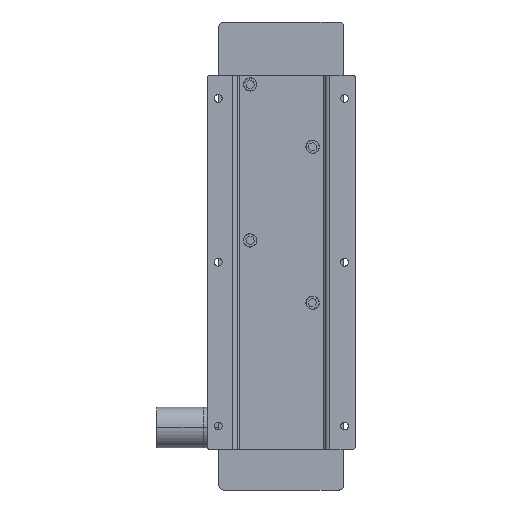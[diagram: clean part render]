
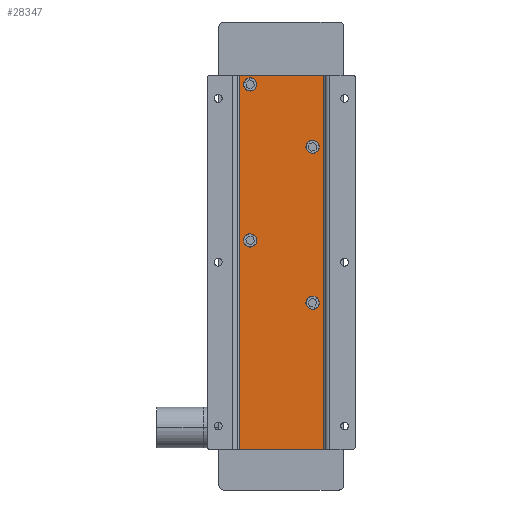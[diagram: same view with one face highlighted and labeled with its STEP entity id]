
A CAD part, left-side view. The second image highlights one B-rep face of the part: STEP entity #28347.
In plain terms, the highlighted planar face has unit normal (-1, 0, 0) as drawn and (0, 0, -1) by its records, which use the part's own axes.
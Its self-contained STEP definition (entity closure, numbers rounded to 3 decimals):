
#742 = CARTESIAN_POINT ( 'NONE',  ( 0., 0., -2. ) ) ;
#1058 = CARTESIAN_POINT ( 'NONE',  ( -110.75, 20., -2. ) ) ;
#1522 = EDGE_CURVE ( 'NONE', #21336, #51454, #3804, .T. ) ;
#1655 = VERTEX_POINT ( 'NONE', #1058 ) ;
#1975 = DIRECTION ( 'NONE',  ( 0., -1., 0. ) ) ;
#2724 = VERTEX_POINT ( 'NONE', #57468 ) ;
#2804 = DIRECTION ( 'NONE',  ( 1., 0., 0. ) ) ;
#3451 = DIRECTION ( 'NONE',  ( 0., 0., 1. ) ) ;
#3510 = LINE ( 'NONE', #21693, #42760 ) ;
#3804 = CIRCLE ( 'NONE', #9486, 3.25 ) ;
#3989 = CIRCLE ( 'NONE', #17433, 3.25 ) ;
#4306 = VECTOR ( 'NONE', #1975, 1000. ) ;
#5058 = VERTEX_POINT ( 'NONE', #40577 ) ;
#5329 = CARTESIAN_POINT ( 'NONE',  ( 120., 27., -2. ) ) ;
#6392 = ORIENTED_EDGE ( 'NONE', *, *, #25452, .F. ) ;
#6662 = VECTOR ( 'NONE', #52565, 1000. ) ;
#7545 = LINE ( 'NONE', #43031, #6662 ) ;
#7714 = DIRECTION ( 'NONE',  ( 1., 0., 0. ) ) ;
#7776 = VERTEX_POINT ( 'NONE', #50615 ) ;
#8488 = ORIENTED_EDGE ( 'NONE', *, *, #19435, .T. ) ;
#9302 = AXIS2_PLACEMENT_3D ( 'NONE', #742, #36752, #23974 ) ;
#9486 = AXIS2_PLACEMENT_3D ( 'NONE', #25546, #3451, #57967 ) ;
#9522 = DIRECTION ( 'NONE',  ( 0., 0., 1. ) ) ;
#10765 = CARTESIAN_POINT ( 'NONE',  ( 22.75, -20., -2. ) ) ;
#11012 = CARTESIAN_POINT ( 'NONE',  ( -14., 20., -2. ) ) ;
#11297 = DIRECTION ( 'NONE',  ( 0., 0., 1. ) ) ;
#11350 = DIRECTION ( 'NONE',  ( 0., 0., 1. ) ) ;
#11554 = VERTEX_POINT ( 'NONE', #17413 ) ;
#11743 = DIRECTION ( 'NONE',  ( 0., 0., 1. ) ) ;
#11931 = CARTESIAN_POINT ( 'NONE',  ( -74., -20., -2. ) ) ;
#12410 = ORIENTED_EDGE ( 'NONE', *, *, #48126, .F. ) ;
#12564 = AXIS2_PLACEMENT_3D ( 'NONE', #11012, #11297, #29791 ) ;
#13014 = DIRECTION ( 'NONE',  ( 1., 0., 0. ) ) ;
#13646 = DIRECTION ( 'NONE',  ( -1., 0., 0. ) ) ;
#13724 = CIRCLE ( 'NONE', #52807, 3.25 ) ;
#14591 = CARTESIAN_POINT ( 'NONE',  ( -114., 20., -2. ) ) ;
#15913 = CARTESIAN_POINT ( 'NONE',  ( 26., -20., -2. ) ) ;
#16229 = CARTESIAN_POINT ( 'NONE',  ( -120., -27., -2. ) ) ;
#16367 = CARTESIAN_POINT ( 'NONE',  ( 29.25, -20., -2. ) ) ;
#16668 = ORIENTED_EDGE ( 'NONE', *, *, #53450, .F. ) ;
#17195 = CIRCLE ( 'NONE', #24979, 3.25 ) ;
#17413 = CARTESIAN_POINT ( 'NONE',  ( 120., -27., -2. ) ) ;
#17433 = AXIS2_PLACEMENT_3D ( 'NONE', #15913, #11743, #2804 ) ;
#17522 = EDGE_LOOP ( 'NONE', ( #30363, #52159 ) ) ;
#19205 = FACE_BOUND ( 'NONE', #25821, .T. ) ;
#19341 = EDGE_CURVE ( 'NONE', #5058, #54147, #26374, .T. ) ;
#19435 = EDGE_CURVE ( 'NONE', #51454, #21336, #17195, .T. ) ;
#19456 = DIRECTION ( 'NONE',  ( 1., 0., 0. ) ) ;
#21087 = ORIENTED_EDGE ( 'NONE', *, *, #1522, .T. ) ;
#21186 = DIRECTION ( 'NONE',  ( 0., 0., 1. ) ) ;
#21336 = VERTEX_POINT ( 'NONE', #55944 ) ;
#21422 = CARTESIAN_POINT ( 'NONE',  ( -120., 27., -2. ) ) ;
#21693 = CARTESIAN_POINT ( 'NONE',  ( 120., -27., -2. ) ) ;
#22369 = VERTEX_POINT ( 'NONE', #21422 ) ;
#23365 = EDGE_CURVE ( 'NONE', #23401, #57530, #13724, .T. ) ;
#23401 = VERTEX_POINT ( 'NONE', #16367 ) ;
#23675 = FACE_BOUND ( 'NONE', #42615, .T. ) ;
#23974 = DIRECTION ( 'NONE',  ( 1., 0., 0. ) ) ;
#24979 = AXIS2_PLACEMENT_3D ( 'NONE', #11931, #21186, #48016 ) ;
#25452 = EDGE_CURVE ( 'NONE', #22369, #51175, #56777, .T. ) ;
#25546 = CARTESIAN_POINT ( 'NONE',  ( -74., -20., -2. ) ) ;
#25821 = EDGE_LOOP ( 'NONE', ( #39612, #45094 ) ) ;
#26141 = CIRCLE ( 'NONE', #53717, 3.25 ) ;
#26374 = CIRCLE ( 'NONE', #43444, 3.25 ) ;
#27392 = LINE ( 'NONE', #5329, #50999 ) ;
#27482 = ORIENTED_EDGE ( 'NONE', *, *, #29743, .F. ) ;
#27862 = FACE_BOUND ( 'NONE', #17522, .T. ) ;
#28114 = ORIENTED_EDGE ( 'NONE', *, *, #54935, .T. ) ;
#28347 = ADVANCED_FACE ( 'NONE', ( #51686, #23675, #19205, #27862, #41833 ), #41249, .F. ) ;
#28987 = CARTESIAN_POINT ( 'NONE',  ( -70.75, -20., -2. ) ) ;
#29019 = DIRECTION ( 'NONE',  ( 0., 0., 1. ) ) ;
#29551 = CARTESIAN_POINT ( 'NONE',  ( -14., 20., -2. ) ) ;
#29743 = EDGE_CURVE ( 'NONE', #11554, #7776, #7545, .T. ) ;
#29791 = DIRECTION ( 'NONE',  ( 1., 0., 0. ) ) ;
#30363 = ORIENTED_EDGE ( 'NONE', *, *, #23365, .T. ) ;
#31483 = CIRCLE ( 'NONE', #39085, 3.25 ) ;
#31963 = ORIENTED_EDGE ( 'NONE', *, *, #36622, .T. ) ;
#32334 = EDGE_LOOP ( 'NONE', ( #6392, #12410, #27482, #16668 ) ) ;
#34243 = EDGE_CURVE ( 'NONE', #57530, #23401, #3989, .T. ) ;
#34556 = EDGE_CURVE ( 'NONE', #54147, #5058, #43059, .T. ) ;
#36622 = EDGE_CURVE ( 'NONE', #2724, #1655, #26141, .T. ) ;
#36752 = DIRECTION ( 'NONE',  ( 0., 0., 1. ) ) ;
#37626 = CARTESIAN_POINT ( 'NONE',  ( 26., -20., -2. ) ) ;
#38167 = DIRECTION ( 'NONE',  ( 1., 0., 0. ) ) ;
#39085 = AXIS2_PLACEMENT_3D ( 'NONE', #14591, #9522, #46188 ) ;
#39612 = ORIENTED_EDGE ( 'NONE', *, *, #19341, .T. ) ;
#40577 = CARTESIAN_POINT ( 'NONE',  ( -10.75, 20., -2. ) ) ;
#41249 = PLANE ( 'NONE',  #9302 ) ;
#41479 = CARTESIAN_POINT ( 'NONE',  ( -114., 20., -2. ) ) ;
#41833 = FACE_OUTER_BOUND ( 'NONE', #32334, .T. ) ;
#42615 = EDGE_LOOP ( 'NONE', ( #8488, #21087 ) ) ;
#42760 = VECTOR ( 'NONE', #13014, 1000. ) ;
#43031 = CARTESIAN_POINT ( 'NONE',  ( 120., -27., -2. ) ) ;
#43059 = CIRCLE ( 'NONE', #12564, 3.25 ) ;
#43444 = AXIS2_PLACEMENT_3D ( 'NONE', #29551, #11350, #38167 ) ;
#45094 = ORIENTED_EDGE ( 'NONE', *, *, #34556, .T. ) ;
#46188 = DIRECTION ( 'NONE',  ( 1., 0., 0. ) ) ;
#47215 = CARTESIAN_POINT ( 'NONE',  ( -17.25, 20., -2. ) ) ;
#48016 = DIRECTION ( 'NONE',  ( 1., 0., 0. ) ) ;
#48126 = EDGE_CURVE ( 'NONE', #7776, #22369, #27392, .T. ) ;
#48954 = CARTESIAN_POINT ( 'NONE',  ( -120., -27., -2. ) ) ;
#50426 = DIRECTION ( 'NONE',  ( 0., 0., 1. ) ) ;
#50615 = CARTESIAN_POINT ( 'NONE',  ( 120., 27., -2. ) ) ;
#50999 = VECTOR ( 'NONE', #13646, 1000. ) ;
#51175 = VERTEX_POINT ( 'NONE', #48954 ) ;
#51454 = VERTEX_POINT ( 'NONE', #28987 ) ;
#51686 = FACE_BOUND ( 'NONE', #51770, .T. ) ;
#51770 = EDGE_LOOP ( 'NONE', ( #28114, #31963 ) ) ;
#52159 = ORIENTED_EDGE ( 'NONE', *, *, #34243, .T. ) ;
#52565 = DIRECTION ( 'NONE',  ( 0., 1., 0. ) ) ;
#52807 = AXIS2_PLACEMENT_3D ( 'NONE', #37626, #29019, #7714 ) ;
#53450 = EDGE_CURVE ( 'NONE', #51175, #11554, #3510, .T. ) ;
#53717 = AXIS2_PLACEMENT_3D ( 'NONE', #41479, #50426, #19456 ) ;
#54147 = VERTEX_POINT ( 'NONE', #47215 ) ;
#54935 = EDGE_CURVE ( 'NONE', #1655, #2724, #31483, .T. ) ;
#55944 = CARTESIAN_POINT ( 'NONE',  ( -77.25, -20., -2. ) ) ;
#56777 = LINE ( 'NONE', #16229, #4306 ) ;
#57468 = CARTESIAN_POINT ( 'NONE',  ( -117.25, 20., -2. ) ) ;
#57530 = VERTEX_POINT ( 'NONE', #10765 ) ;
#57967 = DIRECTION ( 'NONE',  ( 1., 0., 0. ) ) ;
